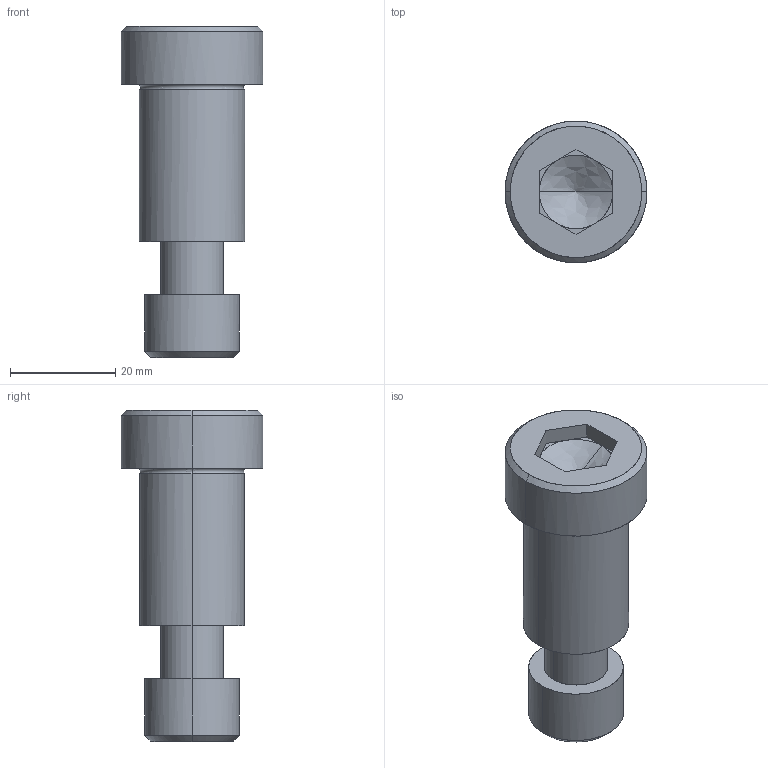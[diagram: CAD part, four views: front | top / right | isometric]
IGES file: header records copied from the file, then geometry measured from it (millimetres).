
Global section: file name: E:\UnigraphicsGraphicData\MISUMI_PRESS-PARTS\IGES\3d_sbtc20-30_05113_r00.igs; native system: NX V5.0; preprocessor: UGS NX IGES V5.0; author: MISUMI; date: 20110105.162448; units: millimetre
Bounding box: 27 x 27 x 63 mm (x, y, z)
Surface area: 7371.7 mm2 (no closed solid volume)
Topology: 0 solids, 0 shells, 52 faces, 294 edges, 290 vertices
Faces by surface type: bspline 52
